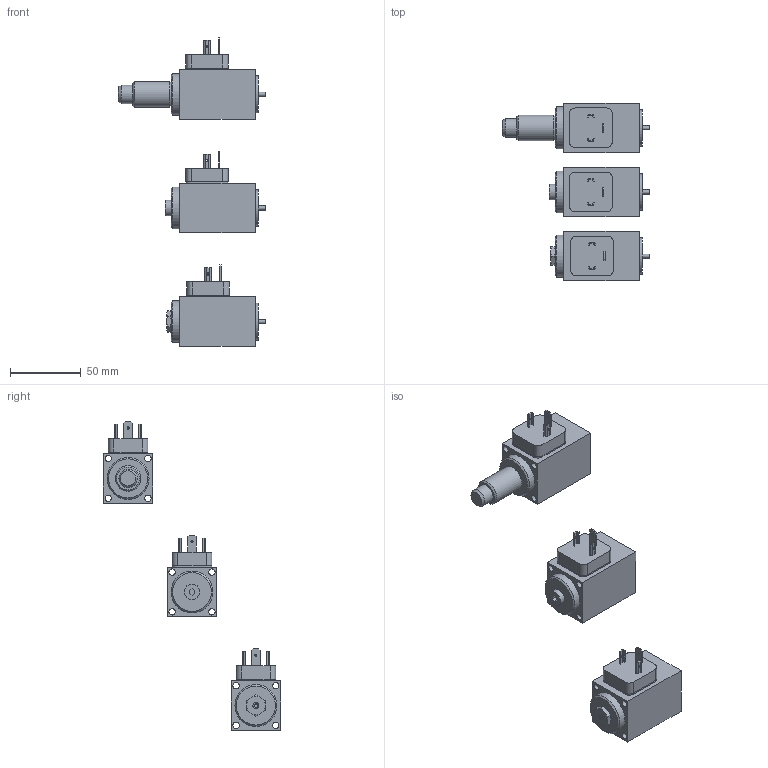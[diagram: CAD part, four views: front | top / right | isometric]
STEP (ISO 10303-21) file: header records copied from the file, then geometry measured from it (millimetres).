
FILE_DESCRIPTION(('Bauteilbeschreibung','HiCAD-Model','HiCAD-STEP-TRANSLATION','Bauteilbeschreibung'),'2;1');
FILE_NAME('K:/STEP_DXF/PI35_V.STP','2006-03-27T15:59:40+00:00',('Konstrukteur'),('Konstrukteur Firma GmbH'),'HiCAD3 V1210 STEP 1.6.2005','HiCAD3 V1210','confidential');
FILE_SCHEMA(('AUTOMOTIVE_DESIGN { 1 2 10303 214 0 1 1 1 }'));
Length unit declared in the file: millimetre
Products named in the file (22): PI35_V; PI35_V_H1; A32612D1; DAB12417; DAB124170; DICHTUNG; A270342B; A2DC75BC; PI35_V_HB0; A3366B79; F134825D; DAB124171; DAB124172; DICHTUNG0; A2DC75BC0; PI35_V_HB4_5; A1D11AE3; A86115F3; DAB124173; DAB124174; DICHTUNG1; A2DC75BC1
Assembly tree (21 placements, depth 5):
  PI35_V
    PI35_V_H1
      A32612D1
        DAB12417
        DAB124170
          DICHTUNG
        A270342B
        A2DC75BC
    PI35_V_HB0
      A3366B79
        F134825D
        DAB124171
        DAB124172
          DICHTUNG0
        A2DC75BC0
    PI35_V_HB4_5
      A1D11AE3
        A86115F3
        DAB124173
        DAB124174
          DICHTUNG1
        A2DC75BC1
Bounding box: 103.9 x 125 x 217.5 mm (x, y, z)
Volume: 232297.1 mm3; surface area: 61524.9 mm2
Topology: 21 solids, 21 shells, 338 faces, 787 edges, 531 vertices
Faces by surface type: plane 196, cylinder 113, cone 24, torus 5
Full cylindrical faces by diameter (mm): 1.5 x9, 2.5 x1, 2.9 x3, 3 x9, 4 x3, 4.2 x1, 4.5 x12, 6 x1, 6.8 x2, 7.5 x3, 8 x6, 11 x1, 12 x3, 12.5 x3, 13 x1, 18 x1, 26 x3, 29.5 x3
Entity records: 16021 total; most frequent: CARTESIAN_POINT 2018, DIRECTION 1654, ORIENTED_EDGE 1332, COLOUR_RGB 1016, PRESENTATION_STYLE_ASSIGNMENT 1016, OVER_RIDING_STYLED_ITEM 1004, CURVE_STYLE 666, DRAUGHTING_PRE_DEFINED_CURVE_FONT 666
